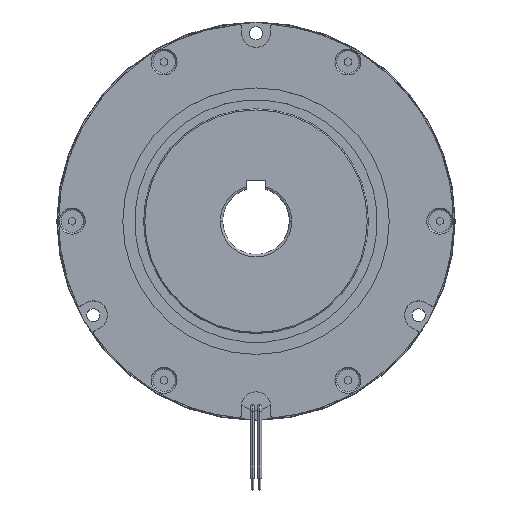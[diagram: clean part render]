
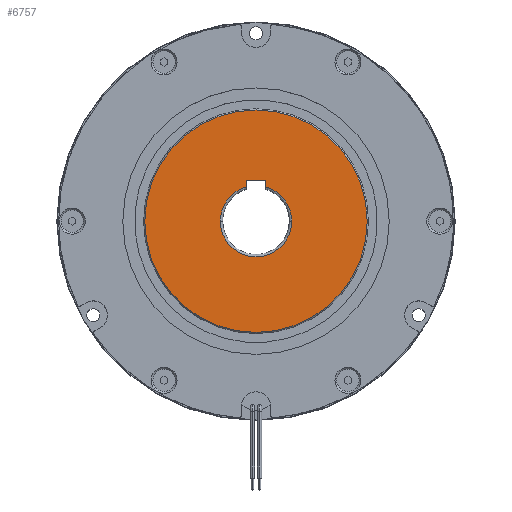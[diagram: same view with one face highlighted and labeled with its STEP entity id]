
A CAD part, top view. The second image highlights one B-rep face of the part: STEP entity #6757.
In plain terms, the highlighted planar face has unit normal (0, 0, 1).
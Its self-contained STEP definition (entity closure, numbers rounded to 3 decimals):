
#411 = EDGE_CURVE ( 'NONE', #8042, #6301, #6594, .T. ) ;
#412 = EDGE_CURVE ( 'NONE', #19057, #12911, #6596, .T. ) ;
#414 = EDGE_CURVE ( 'NONE', #8038, #13166, #6602, .T. ) ;
#415 = EDGE_CURVE ( 'NONE', #6301, #12931, #6600, .T. ) ;
#418 = EDGE_CURVE ( 'NONE', #8038, #8042, #6604, .T. ) ;
#2323 = EDGE_LOOP ( 'NONE', ( #13260, #13268 ) ) ;
#2350 = EDGE_LOOP ( 'NONE', ( #3849, #3844, #13187, #13674, #13536, #13429 ) ) ;
#2579 = CARTESIAN_POINT ( 'NONE',  ( -4., 17., 23.2 ) ) ;
#3844 = ORIENTED_EDGE ( 'NONE', *, *, #414, .T. ) ;
#3849 = ORIENTED_EDGE ( 'NONE', *, *, #418, .F. ) ;
#4004 = CARTESIAN_POINT ( 'NONE',  ( -4., 17., 23.2 ) ) ;
#4023 = DIRECTION ( 'NONE',  ( -1., 0., 0. ) ) ;
#4031 = DIRECTION ( 'NONE',  ( 0., -1., 0. ) ) ;
#4033 = CARTESIAN_POINT ( 'NONE',  ( 0., 0., 23.2 ) ) ;
#4034 = DIRECTION ( 'NONE',  ( 0., 0., 1. ) ) ;
#4035 = DIRECTION ( 'NONE',  ( 1., 0., 0. ) ) ;
#4036 = CARTESIAN_POINT ( 'NONE',  ( -4., 17., 23.2 ) ) ;
#4037 = CARTESIAN_POINT ( 'NONE',  ( 0., 0., 23.2 ) ) ;
#4038 = DIRECTION ( 'NONE',  ( 0., 0., -1. ) ) ;
#4039 = DIRECTION ( 'NONE',  ( 1., 0., 0. ) ) ;
#4040 = DIRECTION ( 'NONE',  ( 0., 1., 0. ) ) ;
#4044 = CARTESIAN_POINT ( 'NONE',  ( 4., 17., 23.2 ) ) ;
#6078 = EDGE_CURVE ( 'NONE', #13166, #12803, #9986, .T. ) ;
#6301 = VERTEX_POINT ( 'NONE', #2579 ) ;
#6594 = LINE ( 'NONE', #4004, #6598 ) ;
#6596 = CIRCLE ( 'NONE', #18947, 46.75 ) ;
#6598 = VECTOR ( 'NONE', #4023, 1000. ) ;
#6600 = LINE ( 'NONE', #4036, #6607 ) ;
#6602 = CIRCLE ( 'NONE', #18946, 15. ) ;
#6604 = LINE ( 'NONE', #4044, #6614 ) ;
#6607 = VECTOR ( 'NONE', #4031, 1000. ) ;
#6614 = VECTOR ( 'NONE', #4040, 1000. ) ;
#6757 = ADVANCED_FACE ( 'NONE', ( #12302, #12306 ), #11868, .T. ) ;
#7128 = EDGE_CURVE ( 'NONE', #12911, #19057, #17410, .T. ) ;
#7425 = EDGE_CURVE ( 'NONE', #12803, #12931, #17629, .T. ) ;
#8038 = VERTEX_POINT ( 'NONE', #18350 ) ;
#8042 = VERTEX_POINT ( 'NONE', #18354 ) ;
#9986 = CIRCLE ( 'NONE', #10182, 15. ) ;
#10182 = AXIS2_PLACEMENT_3D ( 'NONE', #11185, #11186, #11187 ) ;
#10752 = AXIS2_PLACEMENT_3D ( 'NONE', #11888, #11890, #11892 ) ;
#11185 = CARTESIAN_POINT ( 'NONE',  ( 0., 0., 23.2 ) ) ;
#11186 = DIRECTION ( 'NONE',  ( 0., 0., -1. ) ) ;
#11187 = DIRECTION ( 'NONE',  ( 1., 0., 0. ) ) ;
#11868 = PLANE ( 'NONE',  #10752 ) ;
#11888 = CARTESIAN_POINT ( 'NONE',  ( 0., 0., 23.2 ) ) ;
#11890 = DIRECTION ( 'NONE',  ( 0., 0., 1. ) ) ;
#11892 = DIRECTION ( 'NONE',  ( 1., 0., 0. ) ) ;
#12302 = FACE_BOUND ( 'NONE', #2350, .T. ) ;
#12306 = FACE_OUTER_BOUND ( 'NONE', #2323, .T. ) ;
#12803 = VERTEX_POINT ( 'NONE', #18577 ) ;
#12911 = VERTEX_POINT ( 'NONE', #18606 ) ;
#12931 = VERTEX_POINT ( 'NONE', #18612 ) ;
#13166 = VERTEX_POINT ( 'NONE', #18677 ) ;
#13187 = ORIENTED_EDGE ( 'NONE', *, *, #6078, .T. ) ;
#13260 = ORIENTED_EDGE ( 'NONE', *, *, #412, .T. ) ;
#13268 = ORIENTED_EDGE ( 'NONE', *, *, #7128, .T. ) ;
#13429 = ORIENTED_EDGE ( 'NONE', *, *, #411, .F. ) ;
#13536 = ORIENTED_EDGE ( 'NONE', *, *, #415, .F. ) ;
#13674 = ORIENTED_EDGE ( 'NONE', *, *, #7425, .T. ) ;
#15682 = AXIS2_PLACEMENT_3D ( 'NONE', #17763, #17764, #17765 ) ;
#15770 = AXIS2_PLACEMENT_3D ( 'NONE', #18160, #18161, #18162 ) ;
#17410 = CIRCLE ( 'NONE', #15682, 46.75 ) ;
#17629 = CIRCLE ( 'NONE', #15770, 15. ) ;
#17763 = CARTESIAN_POINT ( 'NONE',  ( 0., 0., 23.2 ) ) ;
#17764 = DIRECTION ( 'NONE',  ( 0., 0., 1. ) ) ;
#17765 = DIRECTION ( 'NONE',  ( 1., 0., 0. ) ) ;
#18160 = CARTESIAN_POINT ( 'NONE',  ( 0., 0., 23.2 ) ) ;
#18161 = DIRECTION ( 'NONE',  ( 0., 0., -1. ) ) ;
#18162 = DIRECTION ( 'NONE',  ( 1., 0., 0. ) ) ;
#18350 = CARTESIAN_POINT ( 'NONE',  ( 4., 14.457, 23.2 ) ) ;
#18354 = CARTESIAN_POINT ( 'NONE',  ( 4., 17., 23.2 ) ) ;
#18577 = CARTESIAN_POINT ( 'NONE',  ( -15., 0., 23.2 ) ) ;
#18606 = CARTESIAN_POINT ( 'NONE',  ( 46.75, 0., 23.2 ) ) ;
#18612 = CARTESIAN_POINT ( 'NONE',  ( -4., 14.457, 23.2 ) ) ;
#18677 = CARTESIAN_POINT ( 'NONE',  ( 15., 0., 23.2 ) ) ;
#18831 = CARTESIAN_POINT ( 'NONE',  ( -46.75, 0., 23.2 ) ) ;
#18946 = AXIS2_PLACEMENT_3D ( 'NONE', #4037, #4038, #4039 ) ;
#18947 = AXIS2_PLACEMENT_3D ( 'NONE', #4033, #4034, #4035 ) ;
#19057 = VERTEX_POINT ( 'NONE', #18831 ) ;
